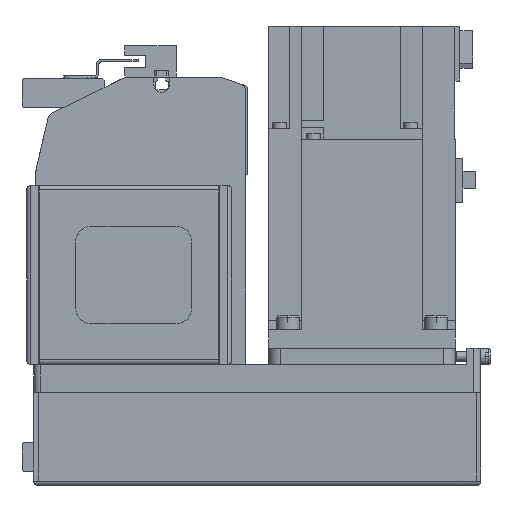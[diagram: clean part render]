
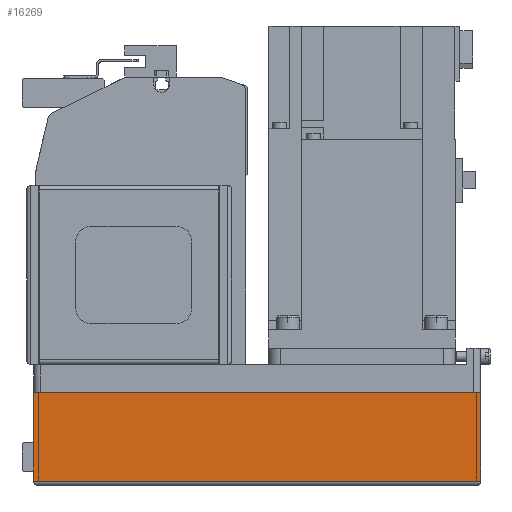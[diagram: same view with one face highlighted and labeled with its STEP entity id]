
A CAD part, left-side view. The second image highlights one B-rep face of the part: STEP entity #16269.
In plain terms, the highlighted planar face has unit normal (-1, 0, 0) as drawn and (0, 1, 0) by its records, which use the part's own axes.
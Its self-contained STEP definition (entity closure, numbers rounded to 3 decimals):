
#2586=ORIENTED_EDGE('',*,*,#6597,.F.);
#2587=ORIENTED_EDGE('',*,*,#6637,.F.);
#2588=ORIENTED_EDGE('',*,*,#6574,.T.);
#2589=ORIENTED_EDGE('',*,*,#6587,.T.);
#6574=EDGE_CURVE('',#8743,#8746,#10410,.T.);
#6587=EDGE_CURVE('',#8746,#8758,#10423,.T.);
#6597=EDGE_CURVE('',#8766,#8758,#10433,.T.);
#6637=EDGE_CURVE('',#8743,#8766,#10451,.T.);
#8743=VERTEX_POINT('',#25042);
#8746=VERTEX_POINT('',#25047);
#8758=VERTEX_POINT('',#25075);
#8766=VERTEX_POINT('',#25095);
#10410=LINE('',#25048,#11986);
#10423=LINE('',#25076,#11999);
#10433=LINE('',#25096,#12009);
#10451=LINE('',#25166,#12027);
#11986=VECTOR('',#20046,1000.);
#11999=VECTOR('',#20065,1000.);
#12009=VECTOR('',#20079,1000.);
#12027=VECTOR('',#20173,1000.);
#13419=EDGE_LOOP('',(#2586,#2587,#2588,#2589));
#14581=FACE_BOUND('',#13419,.T.);
#15576=PLANE('',#17448);
#16269=ADVANCED_FACE('',(#14581),#15576,.T.);
#17448=AXIS2_PLACEMENT_3D('',#25165,#20171,#20172);
#20046=DIRECTION('',(0.,0.,1.));
#20065=DIRECTION('',(1.,0.,0.));
#20079=DIRECTION('',(0.,0.,1.));
#20171=DIRECTION('',(0.,1.,0.));
#20172=DIRECTION('',(0.,0.,1.));
#20173=DIRECTION('',(1.,0.,0.));
#25042=CARTESIAN_POINT('',(-192.,40.,-50.));
#25047=CARTESIAN_POINT('',(-192.,40.,-12.1));
#25048=CARTESIAN_POINT('',(-192.,40.,-50.));
#25075=CARTESIAN_POINT('',(0.,40.,-12.1));
#25076=CARTESIAN_POINT('',(-192.,40.,-12.1));
#25095=CARTESIAN_POINT('',(0.,40.,-50.));
#25096=CARTESIAN_POINT('',(0.,40.,-50.));
#25165=CARTESIAN_POINT('',(-192.,40.,-50.));
#25166=CARTESIAN_POINT('',(-192.,40.,-50.));
